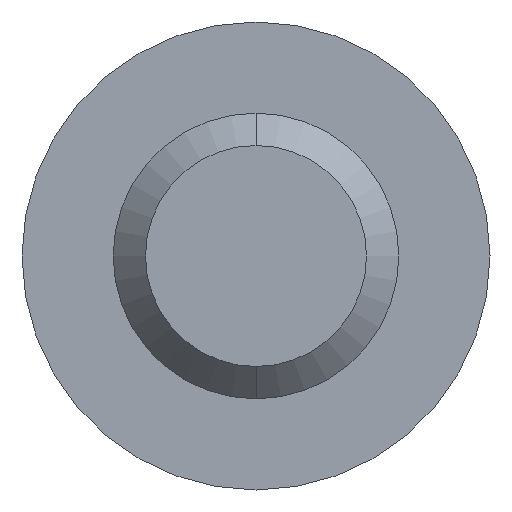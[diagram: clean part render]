
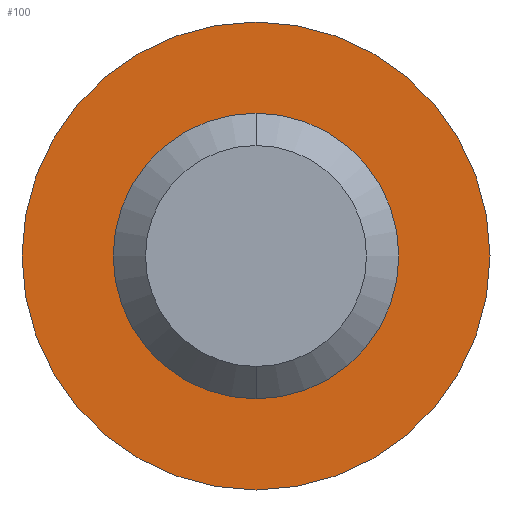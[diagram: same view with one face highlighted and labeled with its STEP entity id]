
A CAD part, front view. The second image highlights one B-rep face of the part: STEP entity #100.
In plain terms, the highlighted planar face has unit normal (0, -1, 0).
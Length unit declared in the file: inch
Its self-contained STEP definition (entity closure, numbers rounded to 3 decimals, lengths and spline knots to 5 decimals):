
#11 = VERTEX_POINT ( 'NONE', #173 ) ;
#13 = EDGE_CURVE ( 'NONE', #14, #11, #172, .T. ) ;
#14 = VERTEX_POINT ( 'NONE', #167 ) ;
#43 = EDGE_CURVE ( 'NONE', #63, #62, #238, .T. ) ;
#45 = EDGE_LOOP ( 'NONE', ( #101, #102 ) ) ;
#61 = EDGE_CURVE ( 'NONE', #62, #63, #266, .T. ) ;
#62 = VERTEX_POINT ( 'NONE', #261 ) ;
#63 = VERTEX_POINT ( 'NONE', #260 ) ;
#100 = ADVANCED_FACE ( 'NONE', ( #326, #322 ), #321, .F. ) ;
#101 = ORIENTED_EDGE ( 'NONE', *, *, #61, .F. ) ;
#102 = ORIENTED_EDGE ( 'NONE', *, *, #43, .F. ) ;
#103 = EDGE_LOOP ( 'NONE', ( #104, #105 ) ) ;
#104 = ORIENTED_EDGE ( 'NONE', *, *, #13, .T. ) ;
#105 = ORIENTED_EDGE ( 'NONE', *, *, #106, .T. ) ;
#106 = EDGE_CURVE ( 'NONE', #11, #14, #315, .T. ) ;
#167 = CARTESIAN_POINT ( 'NONE',  ( 0., 0., 0.069 ) ) ;
#168 = DIRECTION ( 'NONE',  ( 0., 0., 1. ) ) ;
#169 = DIRECTION ( 'NONE',  ( 0., 1., 0. ) ) ;
#170 = CARTESIAN_POINT ( 'NONE',  ( 0., 0., 0. ) ) ;
#171 = AXIS2_PLACEMENT_3D ( 'NONE', #170, #169, #168 ) ;
#172 = CIRCLE ( 'NONE', #171, 0.069 ) ;
#173 = CARTESIAN_POINT ( 'NONE',  ( 0., 0., -0.069 ) ) ;
#229 = DIRECTION ( 'NONE',  ( 0., 0., 1. ) ) ;
#230 = DIRECTION ( 'NONE',  ( 0., 1., 0. ) ) ;
#231 = CARTESIAN_POINT ( 'NONE',  ( 0., 0., 0. ) ) ;
#232 = AXIS2_PLACEMENT_3D ( 'NONE', #231, #230, #229 ) ;
#238 = CIRCLE ( 'NONE', #232, 0.113 ) ;
#260 = CARTESIAN_POINT ( 'NONE',  ( 0., 0., -0.113 ) ) ;
#261 = CARTESIAN_POINT ( 'NONE',  ( 0., 0., 0.113 ) ) ;
#262 = DIRECTION ( 'NONE',  ( 0., 0., 1. ) ) ;
#263 = DIRECTION ( 'NONE',  ( 0., 1., 0. ) ) ;
#264 = CARTESIAN_POINT ( 'NONE',  ( 0., 0., 0. ) ) ;
#265 = AXIS2_PLACEMENT_3D ( 'NONE', #264, #263, #262 ) ;
#266 = CIRCLE ( 'NONE', #265, 0.113 ) ;
#312 = DIRECTION ( 'NONE',  ( 0., 0., 1. ) ) ;
#313 = DIRECTION ( 'NONE',  ( 0., 1., 0. ) ) ;
#314 = AXIS2_PLACEMENT_3D ( 'NONE', #319, #313, #312 ) ;
#315 = CIRCLE ( 'NONE', #314, 0.069 ) ;
#316 = DIRECTION ( 'NONE',  ( 0., 0., 1. ) ) ;
#317 = DIRECTION ( 'NONE',  ( 0., 1., 0. ) ) ;
#318 = CARTESIAN_POINT ( 'NONE',  ( 0.113, 0., 0. ) ) ;
#319 = CARTESIAN_POINT ( 'NONE',  ( 0., 0., 0. ) ) ;
#320 = AXIS2_PLACEMENT_3D ( 'NONE', #318, #317, #316 ) ;
#321 = PLANE ( 'NONE',  #320 ) ;
#322 = FACE_BOUND ( 'NONE', #103, .T. ) ;
#326 = FACE_OUTER_BOUND ( 'NONE', #45, .T. ) ;
